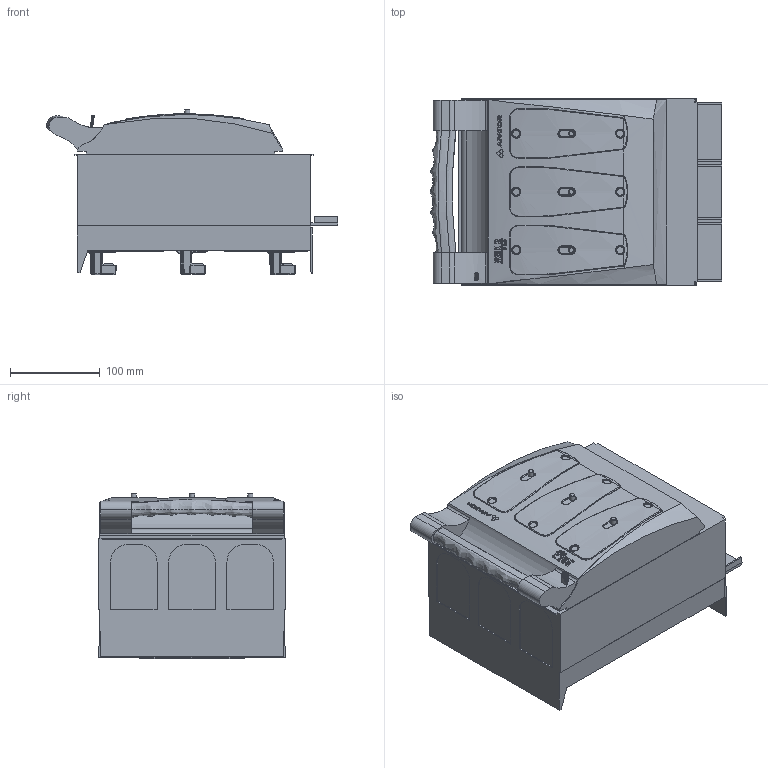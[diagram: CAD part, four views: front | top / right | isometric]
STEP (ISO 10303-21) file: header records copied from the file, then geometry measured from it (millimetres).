
FILE_DESCRIPTION(/* description */ (''),/* implementation_level */ '2;1');
FILE_NAME(/* name */ 'RBK 2 pro-SD-V 100.stp',/* time_stamp */ '2020-09-30T09:34:07+02:00',/* author */ (''),/* organization */ (''),/* preprocessor_version */ 'ST-DEVELOPER v16',/* originating_system */ 'SIEMENS PLM Software NX 10.0',/* authorisation */ '');
FILE_SCHEMA (('AUTOMOTIVE_DESIGN { 1 0 10303 214 3 1 1 1 }'));
Products named in the file (1): 710_2CE077B1gmc6
Bounding box: 325.32 x 208 x 184.12 mm (x, y, z)
Volume: 7164280.8 mm3; surface area: 423389.9 mm2
Topology: 1 solids, 6 shells, 2175 faces, 5925 edges, 3745 vertices
Faces by surface type: plane 1296, cylinder 391, bspline 325, extrusion 95, sphere 43, torus 16, cone 9
Full cylindrical faces by diameter (mm): 6 x3
Entity records: 81268 total; most frequent: CARTESIAN_POINT 27990, ORIENTED_EDGE 11618, DIRECTION 10681, EDGE_CURVE 5809, AXIS2_PLACEMENT_3D 3833, VERTEX_POINT 3726, VECTOR 3015, LINE 2920
